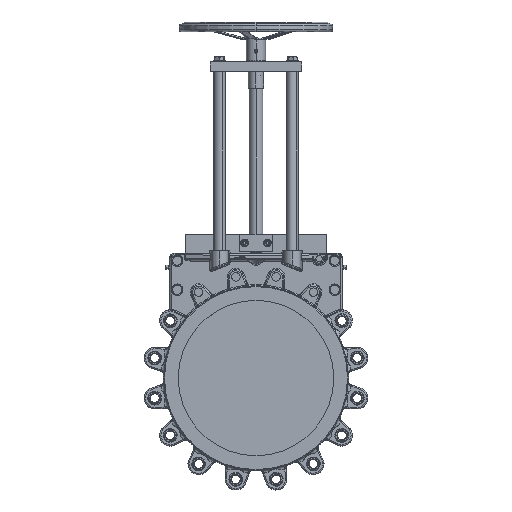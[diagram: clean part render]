
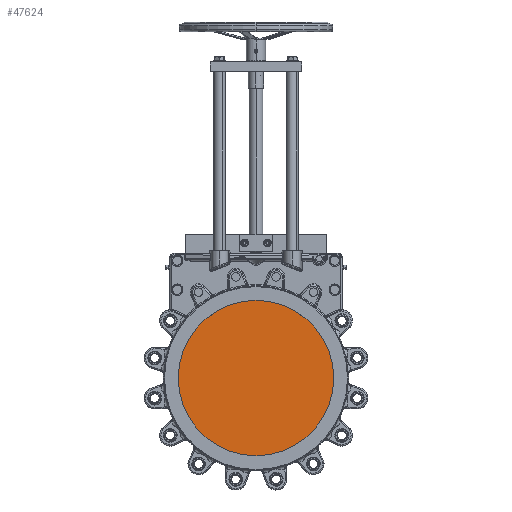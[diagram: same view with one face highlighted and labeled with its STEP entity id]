
A CAD part, top view. The second image highlights one B-rep face of the part: STEP entity #47624.
In plain terms, the highlighted planar face has unit normal (0, 0, 1).
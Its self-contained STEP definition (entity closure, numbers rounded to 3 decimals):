
#5626 = DIRECTION ( 'NONE',  ( 0., 0., 1. ) ) ;
#18981 = EDGE_CURVE ( 'NONE', #84295, #132375, #86315, .T. ) ;
#32347 = AXIS2_PLACEMENT_3D ( 'NONE', #143651, #64247, #42914 ) ;
#33007 = ORIENTED_EDGE ( 'NONE', *, *, #100008, .T. ) ;
#37229 = ORIENTED_EDGE ( 'NONE', *, *, #18981, .T. ) ;
#42914 = DIRECTION ( 'NONE',  ( 1., 0., 0. ) ) ;
#47624 = ADVANCED_FACE ( 'NONE', ( #71794 ), #116644, .T. ) ;
#50412 = DIRECTION ( 'NONE',  ( 1., 0., 0. ) ) ;
#64247 = DIRECTION ( 'NONE',  ( 0., 0., 1. ) ) ;
#71794 = FACE_OUTER_BOUND ( 'NONE', #94272, .T. ) ;
#72316 = DIRECTION ( 'NONE',  ( 1., 0., 0. ) ) ;
#84295 = VERTEX_POINT ( 'NONE', #98603 ) ;
#86315 = CIRCLE ( 'NONE', #32347, 203.2 ) ;
#94272 = EDGE_LOOP ( 'NONE', ( #37229, #33007 ) ) ;
#96823 = CIRCLE ( 'NONE', #129643, 203.2 ) ;
#97466 = CARTESIAN_POINT ( 'NONE',  ( 203.2, 0., -0.25 ) ) ;
#98603 = CARTESIAN_POINT ( 'NONE',  ( -203.2, 0., -0.25 ) ) ;
#100008 = EDGE_CURVE ( 'NONE', #132375, #84295, #96823, .T. ) ;
#106147 = CARTESIAN_POINT ( 'NONE',  ( 0., 0., -0.25 ) ) ;
#106334 = CARTESIAN_POINT ( 'NONE',  ( 0., 0., -0.25 ) ) ;
#116644 = PLANE ( 'NONE',  #139349 ) ;
#117187 = DIRECTION ( 'NONE',  ( 0., 0., 1. ) ) ;
#129643 = AXIS2_PLACEMENT_3D ( 'NONE', #106147, #117187, #72316 ) ;
#132375 = VERTEX_POINT ( 'NONE', #97466 ) ;
#139349 = AXIS2_PLACEMENT_3D ( 'NONE', #106334, #5626, #50412 ) ;
#143651 = CARTESIAN_POINT ( 'NONE',  ( 0., 0., -0.25 ) ) ;
